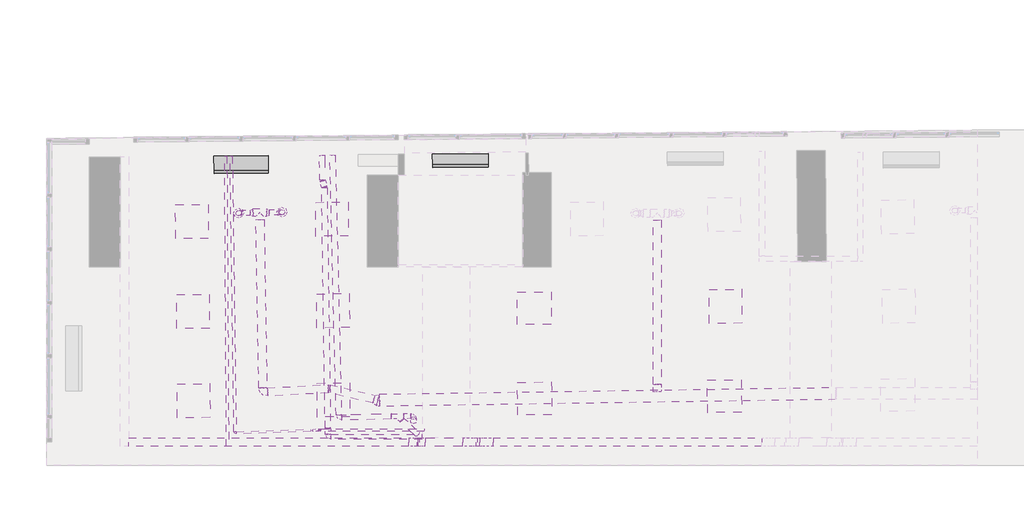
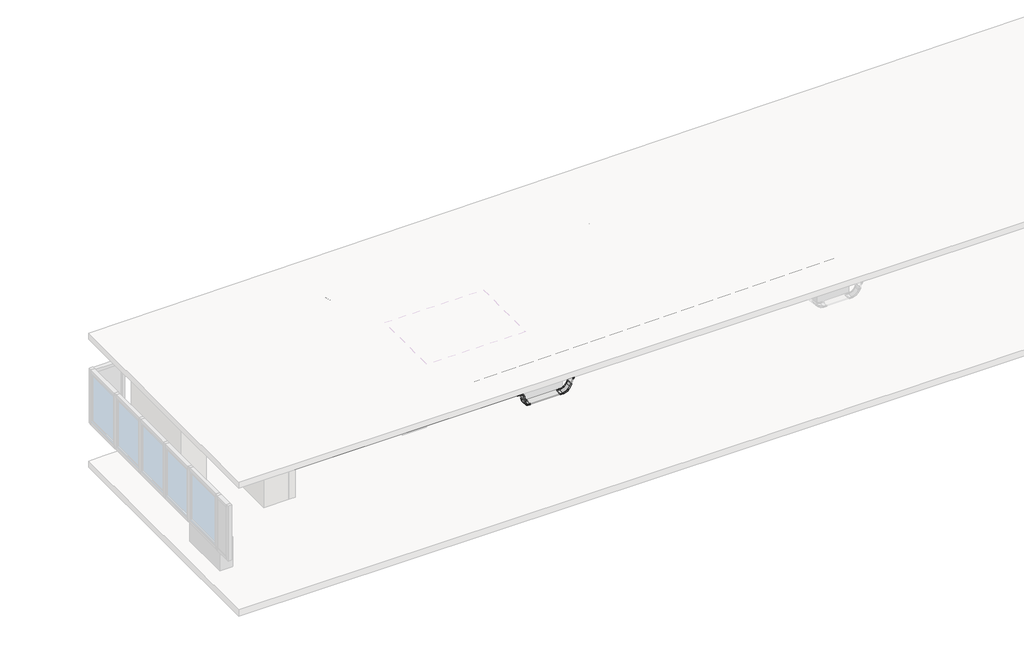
# One storey, part 6 of 8: 16 pipe segments, 10 duct fittings, 10 light fixtures, 10 pipe fittings, 9 duct segments, 5 cable carrier segments, 4 cable carrier fittings, 2 air terminals, 2 proxies.
"""IFC4 building model written with IfcOpenShell, lengths in millimetres."""

from ifc_helpers import new_model, si_unit, point, frame, frame_2d, origin, place, context, project, spatial, polyline, circle_curve, trimmed, segment, composite_curve, outline, extrude, transform, mapped, element, save
from components import air_terminal_3114c91a, proxy_798cdd37, proxy_726a70f3, channel_vertical_inside_bend_standard_5d8f391f, channel_vertical_inside_bend_standard_2b1ffb91, channel_vertical_outside_bend_standard_ca4bb387, channel_vertical_outside_bend_standard_291dc770, round_elbow_0_55_d_35647d84, round_elbow_0_55_d_2f2e2e61, round_elbow_0_55_d_09b24e18, round_elbow_0_55_d_1858b3fd, round_elbow_0_55_d_c1909886, round_takeoff_standard_f417390f, round_tee_standard_f7545f24, round_transition_length_standard_e66f7e9a, round_transition_length_standard_0e983aa8, pendant_lighting_fixture_1x4_120v_cc67f8e6, elbow_generic_standard_60ae2d4a, elbow_generic_standard_17437e0f, elbow_generic_standard_f62a786a, elbow_generic_standard_a206539d, elbow_generic_standard_da60b183, elbow_generic_standard_a6ae4ebe, elbow_generic_standard_b21686b2, tee_generic_standard_02cc237d

model = new_model("IFC4")

# Units and contexts
model_context = context("Model", 3, world=origin())
ifc_project = project(units=[si_unit("LENGTHUNIT", "METRE", prefix="MILLI")], contexts=[model_context])

# Site, building, storey
site = spatial("IfcSite", under=ifc_project)
building = spatial("IfcBuilding", under=site)
storey = spatial("IfcBuildingStorey", under=building, Name="GFL", Elevation=0.0)

# Air terminals
placement = place(None, origin())
air_terminal_shape = air_terminal_3114c91a(model_context)
element("IfcAirTerminal", 1, ObjectType="Supply Diffuser - Circular - Round Neck - Ceiling Mounted : 6\" Face 4\" Neck", at=placement, inside=storey, context=model_context, shape_type="MappedRepresentation", body=[
    mapped(air_terminal_shape, transform((-41029.1808852, 5716.9615802, 2689.3417846), x_axis=(-1.0, 0.0, 0.0), y_axis=(0.0, 1.0, 0.0), z_axis=(0.0, 0.0, -1.0))),
])
element("IfcAirTerminal", 2, ObjectType="Supply Diffuser - Circular - Round Neck - Ceiling Mounted : 6\" Face 4\" Neck", at=placement, inside=storey, context=model_context, shape_type="MappedRepresentation", body=[
    mapped(air_terminal_shape, transform((-41837.6248539, 5697.8498364, 2689.3417846), x_axis=(-1.0, 0.0, 0.0), y_axis=(0.0, 1.0, 0.0), z_axis=(0.0, 0.0, -1.0))),
])

# Proxies
proxy_shape = proxy_798cdd37(model_context)
element("IfcBuildingElementProxy", 3, Name="Radiator - Hydronic Fin Tube : 0-3/8\" NPT", ObjectType="Radiator - Hydronic Fin Tube : 0-3/8\" NPT", at=placement, inside=storey, context=model_context, shape_type="MappedRepresentation", body=[
    mapped(proxy_shape, transform((-38094.0061072, 6984.0221886, -304.8), x_axis=(-0.9999588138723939, -0.009075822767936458, 0.0), y_axis=(0.009075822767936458, -0.9999588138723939, 0.0), z_axis=(0.0, 0.0, 1.0))),
])
proxy_2_shape = proxy_726a70f3(model_context)
element("IfcBuildingElementProxy", 4, Name="Radiator - Hydronic Fin Tube : 0-3/8\" NPT 2", ObjectType="Radiator - Hydronic Fin Tube : 0-3/8\" NPT 2", at=placement, inside=storey, context=model_context, shape_type="MappedRepresentation", body=[
    mapped(proxy_2_shape, transform((-42203.3668942, 6946.7248223, -304.8), x_axis=(-0.9999588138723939, -0.009075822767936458, 0.0), y_axis=(0.009075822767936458, -0.9999588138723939, 0.0), z_axis=(0.0, 0.0, 1.0))),
])

# Cable carrier fittings
channel_vertical_inside_bend_standard_shape = channel_vertical_inside_bend_standard_5d8f391f(model_context)
element("IfcCableCarrierFitting", 5, ObjectType="Channel Vertical Inside Bend : Standard", at=placement, inside=storey, context=model_context, shape_type="MappedRepresentation", body=[
    mapped(channel_vertical_inside_bend_standard_shape, transform((-37467.8184924, 1419.8456465, 2429.073172), x_axis=(-0.4067366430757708, 0.0, -0.9135454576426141), y_axis=(-0.9135454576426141, 0.0, 0.4067366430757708), z_axis=(0.0, 1.0, 0.0))),
])
channel_vertical_inside_bend_standard_2_shape = channel_vertical_inside_bend_standard_2b1ffb91(model_context)
element("IfcCableCarrierFitting", 6, ObjectType="Channel Vertical Inside Bend : Standard", at=placement, inside=storey, context=model_context, shape_type="MappedRepresentation", body=[
    mapped(channel_vertical_inside_bend_standard_2_shape, transform((-38458.4184924, 1419.8456465, 2429.073172), x_axis=(-1.0, 0.0, 0.0), y_axis=(0.0, 0.0, 1.0), z_axis=(0.0, 1.0, 0.0))),
])
channel_vertical_outside_bend_standard_shape = channel_vertical_outside_bend_standard_ca4bb387(model_context)
element("IfcCableCarrierFitting", 7, ObjectType="Channel Vertical Outside Bend : Standard", at=placement, inside=storey, context=model_context, shape_type="MappedRepresentation", body=[
    mapped(channel_vertical_outside_bend_standard_shape, transform((-37271.5273884, 1419.8456465, 2869.9502098), x_axis=(-1.0, 0.0, 0.0), y_axis=(0.0, 0.0, -1.0), z_axis=(0.0, -1.0, 0.0))),
])
channel_vertical_outside_bend_standard_2_shape = channel_vertical_outside_bend_standard_291dc770(model_context)
element("IfcCableCarrierFitting", 8, ObjectType="Channel Vertical Outside Bend : Standard", at=placement, inside=storey, context=model_context, shape_type="MappedRepresentation", body=[
    mapped(channel_vertical_outside_bend_standard_2_shape, transform((-38513.4497264, 1419.8456465, 2741.1708089), x_axis=(-0.173648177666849, 0.0, 0.9848077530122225), y_axis=(-0.9848077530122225, 0.0, -0.173648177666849), z_axis=(0.0, -1.0, 0.0))),
])

# Cable carrier segments
element("IfcCableCarrierSegment", 9, ObjectType="Channel Cable Tray", at=placement, inside=storey, context=model_context, shape_type="SweptSolid", body=[
    extrude(outline(polyline([(-32068.1846444, 1496.0456465), (-32068.1846444, 1343.6456465), (-37088.1101948, 1343.6456465), (-37088.1101948, 1496.0456465), (-32068.1846444, 1496.0456465)])), frame((0.0, 0.0, 2857.2502098), z_axis=(0.0, 0.0, 1.0), x_axis=(1.0, 0.0, 0.0)), (0.0, 0.0, 1.0), 25.4),
])
element("IfcCableCarrierSegment", 10, ObjectType="Channel Cable Tray", at=placement, inside=storey, context=model_context, shape_type="SweptSolid", body=[
    extrude(outline(polyline([(12.7, -1.0510841), (12.7, -153.4510841), (-12.7, -153.4510841), (-12.7, -1.0510841), (12.7, -1.0510841)])), frame((-37393.2159988, 1497.0967306, 2596.6331161), z_axis=(0.4067366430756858, 0.0, 0.9135454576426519), x_axis=(0.9135454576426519, 0.0, -0.4067366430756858)), (0.0, 0.0, 1.0), 115.7656127),
])
element("IfcCableCarrierSegment", 11, ObjectType="Channel Cable Tray", at=placement, inside=storey, context=model_context, shape_type="SweptSolid", body=[
    extrude(outline(polyline([(-37651.235686, 1496.0456465), (-37651.235686, 1343.6456465), (-38354.3356658, 1343.6456465), (-38354.3356658, 1496.0456465), (-37651.235686, 1496.0456465)])), frame((0.0, 0.0, 2416.373172), z_axis=(0.0, 0.0, 1.0), x_axis=(1.0, 0.0, 0.0)), (0.0, 0.0, 1.0), 25.4),
])
element("IfcCableCarrierSegment", 12, ObjectType="Channel Cable Tray", at=placement, inside=storey, context=model_context, shape_type="SweptSolid", body=[
    extrude(outline(polyline([(-12.7, 153.4510841), (12.6999999, 153.4510841), (12.6999999, 1.0510841), (-12.7, 1.0510841), (-12.7, 153.4510841)])), frame((-38476.4922855, 1342.5945624, 2531.5747465), z_axis=(-0.173648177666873, 0.0, 0.9848077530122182), x_axis=(0.9848077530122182, 0.0, 0.173648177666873)), (0.0, 0.0, 1.0), 62.0334623),
])
element("IfcCableCarrierSegment", 13, ObjectType="Channel Cable Tray", at=placement, inside=storey, context=model_context, shape_type="SweptSolid", body=[
    extrude(outline(polyline([(-38664.2456836, 1496.0456465), (-38664.2456836, 1343.6456465), (-43892.2683535, 1343.6456465), (-43892.2683535, 1496.0456465), (-38664.2456836, 1496.0456465)])), frame((0.0, 0.0, 2728.4708089), z_axis=(0.0, 0.0, 1.0), x_axis=(1.0, 0.0, 0.0)), (0.0, 0.0, 1.0), 25.4),
])

# Duct fittings
round_elbow_0_55_d_shape = round_elbow_0_55_d_35647d84(model_context)
element("IfcDuctFitting", 14, ObjectType="Round Elbow : 0.55 D", at=placement, inside=storey, context=model_context, shape_type="MappedRepresentation", body=[
    mapped(round_elbow_0_55_d_shape, transform((-41029.1808852, 5716.9615802, 2890.0792846), x_axis=(0.9998476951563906, 0.0174524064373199, 0.0), y_axis=(0.0, 0.0, -1.0), z_axis=(-0.0174524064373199, 0.9998476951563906, 0.0))),
])
round_elbow_0_55_d_2_shape = round_elbow_0_55_d_2f2e2e61(model_context)
element("IfcDuctFitting", 15, ObjectType="Round Elbow : 0.55 D", at=placement, inside=storey, context=model_context, shape_type="MappedRepresentation", body=[
    mapped(round_elbow_0_55_d_2_shape, transform((-39223.3601217, 2202.7227638, 2890.0792846), x_axis=(0.9743700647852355, -0.22495105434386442, 0.0), y_axis=(0.22495105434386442, 0.9743700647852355, 0.0), z_axis=(0.0, 0.0, 1.0))),
])
round_elbow_0_55_d_3_shape = round_elbow_0_55_d_09b24e18(model_context)
element("IfcDuctFitting", 16, ObjectType="Round Elbow : 0.55 D", at=placement, inside=storey, context=model_context, shape_type="MappedRepresentation", body=[
    mapped(round_elbow_0_55_d_3_shape, transform((-40152.6939927, 2417.2763935, 2890.0792846), x_axis=(-0.9743700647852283, 0.22495105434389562, 0.0), y_axis=(-0.22495105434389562, -0.9743700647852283, 0.0), z_axis=(0.0, 0.0, 1.0))),
])
round_elbow_0_55_d_4_shape = round_elbow_0_55_d_1858b3fd(model_context)
element("IfcDuctFitting", 17, ObjectType="Round Elbow : 0.55 D", at=placement, inside=storey, context=model_context, shape_type="MappedRepresentation", body=[
    mapped(round_elbow_0_55_d_4_shape, transform((-41381.2026679, 2352.892982, 2890.0792846), x_axis=(0.05233595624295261, -0.9986295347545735, 0.0), y_axis=(0.9986295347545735, 0.05233595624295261, 0.0), z_axis=(0.0, 0.0, 1.0))),
])
round_elbow_0_55_d_5_shape = round_elbow_0_55_d_c1909886(model_context)
element("IfcDuctFitting", 18, ObjectType="Round Elbow : 0.55 D", at=placement, inside=storey, context=model_context, shape_type="MappedRepresentation", body=[
    mapped(round_elbow_0_55_d_5_shape, transform((-41836.4088771, 5702.8713632, 2890.0792846), x_axis=(-0.9998476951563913, -0.017452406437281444, 0.0), y_axis=(0.0007000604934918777, -0.04010643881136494, -0.9991951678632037), z_axis=(0.01743836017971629, -0.9990429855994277, 0.040112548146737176))),
])
round_takeoff_standard_shape = round_takeoff_standard_f417390f(model_context)
element("IfcDuctFitting", 19, ObjectType="Round Takeoff : Standard", at=placement, inside=storey, context=model_context, shape_type="MappedRepresentation", body=[
    mapped(round_takeoff_standard_shape, transform((-34022.2148144, 2394.4999263, 2890.0792846), x_axis=(0.0, 1.0, 0.0), y_axis=(-1.0, 0.0, 0.0), z_axis=(0.0, 0.0, 1.0))),
])
round_tee_standard_shape = round_tee_standard_f7545f24(model_context)
element("IfcDuctFitting", 20, ObjectType="Round Tee : Standard", at=placement, inside=storey, context=model_context, shape_type="MappedRepresentation", body=[
    mapped(round_tee_standard_shape, transform((-41442.7688395, 5709.7423756, 2890.0792846), x_axis=(0.9998476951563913, 0.017452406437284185, 0.0), y_axis=(-0.017452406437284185, 0.9998476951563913, 0.0), z_axis=(0.0, 0.0, 1.0))),
])
round_transition_length_standard_shape = round_transition_length_standard_e66f7e9a(model_context)
element("IfcDuctFitting", 21, ObjectType="Round Transition - Length : Standard", at=placement, inside=storey, context=model_context, shape_type="MappedRepresentation", body=[
    mapped(round_transition_length_standard_shape, transform((-41569.7494968, 5707.52592, 2890.0792846), x_axis=(-0.9998476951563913, -0.017452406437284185, 0.0), y_axis=(0.017452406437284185, -0.9998476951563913, 0.0), z_axis=(0.0, 0.0, 1.0))),
])
element("IfcDuctFitting", 22, ObjectType="Round Transition - Length : Standard", at=placement, inside=storey, context=model_context, shape_type="MappedRepresentation", body=[
    mapped(round_transition_length_standard_shape, transform((-41315.7881822, 5711.9588312, 2890.0792846), x_axis=(0.9998476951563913, 0.017452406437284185, 0.0), y_axis=(-0.017452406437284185, 0.9998476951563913, 0.0), z_axis=(0.0, 0.0, 1.0))),
])
round_transition_length_standard_2_shape = round_transition_length_standard_0e983aa8(model_context)
element("IfcDuctFitting", 23, ObjectType="Round Transition - Length : Standard", at=placement, inside=storey, context=model_context, shape_type="MappedRepresentation", body=[
    mapped(round_transition_length_standard_2_shape, transform((-39238.2429675, 2206.1587395, 2890.0792846), x_axis=(-0.9743700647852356, 0.22495105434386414, 0.0), y_axis=(-0.22495105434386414, -0.9743700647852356, 0.0), z_axis=(0.0, 0.0, 1.0))),
])

# Duct segments
element("IfcDuctSegment", 24, ObjectType="Default_Tap", at=placement, inside=storey, context=model_context, shape_type="SweptSolid", body=[
    extrude(outline(composite_curve([segment(trimmed(circle_curve(frame_2d((0.0, 114.3)), 114.3), [point((114.3, 114.3))], [point((0.0, 0.0))], False, "CARTESIAN"), True, "CONTINUOUS"), segment(trimmed(circle_curve(frame_2d((0.0, 114.3)), 114.3), [point((0.0, 0.0))], [point((-114.3, 114.3))], False, "CARTESIAN"), True, "CONTINUOUS"), segment(trimmed(circle_curve(frame_2d((0.0, 114.3)), 114.3), [point((-114.3, 114.3))], [point((0.0, 228.6))], False, "CARTESIAN"), True, "CONTINUOUS"), segment(trimmed(circle_curve(frame_2d((0.0, 114.3)), 114.3), [point((0.0, 228.6))], [point((114.3, 114.3))], False, "CARTESIAN"), True, "CONTINUOUS")], self_intersect=False)), frame((-39208.0874897, 2202.9502303, 3004.3792846), z_axis=(0.9998891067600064, 0.014892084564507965, 0.0), x_axis=(0.014892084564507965, -0.9998891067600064, 0.0)), (0.0, 0.0, 1.0), 8522.6117112),
])
element("IfcDuctSegment", 25, ObjectType="Default_Tap", at=placement, inside=storey, context=model_context, shape_type="SweptSolid", body=[
    extrude(outline(composite_curve([segment(trimmed(circle_curve(frame_2d((2890.0792846, -34022.2148144)), 76.2), [point((2890.0792846, -33946.0148144))], [point((2966.2792846, -34022.2148144))], False, "CARTESIAN"), True, "CONTINUOUS"), segment(trimmed(circle_curve(frame_2d((2890.0792846, -34022.2148144)), 76.2), [point((2966.2792846, -34022.2148144))], [point((2890.0792846, -34098.4148144))], False, "CARTESIAN"), True, "CONTINUOUS"), segment(trimmed(circle_curve(frame_2d((2890.0792846, -34022.2148144)), 76.2), [point((2890.0792846, -34098.4148144))], [point((2813.8792846, -34022.2148144))], False, "CARTESIAN"), True, "CONTINUOUS"), segment(trimmed(circle_curve(frame_2d((2890.0792846, -34022.2148144)), 76.2), [point((2813.8792846, -34022.2148144))], [point((2890.0792846, -33946.0148144))], False, "CARTESIAN"), True, "CONTINUOUS")], self_intersect=False)), frame((0.0, 2497.234829, 0.0), z_axis=(0.0, 1.0, 0.0), x_axis=(0.0, 0.0, 1.0)), (0.0, 0.0, 1.0), 3073.6150074),
])
element("IfcDuctSegment", 26, ObjectType="Default_Tap", at=placement, inside=storey, context=model_context, shape_type="SweptSolid", body=[
    extrude(outline(composite_curve([segment(trimmed(circle_curve(frame_2d((0.0, 76.2)), 76.2), [point((76.2, 76.2))], [point((0.0, 0.0))], False, "CARTESIAN"), True, "CONTINUOUS"), segment(trimmed(circle_curve(frame_2d((0.0, 76.2)), 76.2), [point((0.0, 0.0))], [point((-76.2, 76.2))], False, "CARTESIAN"), True, "CONTINUOUS"), segment(trimmed(circle_curve(frame_2d((0.0, 76.2)), 76.2), [point((-76.2, 76.2))], [point((0.0, 152.4))], False, "CARTESIAN"), True, "CONTINUOUS"), segment(trimmed(circle_curve(frame_2d((0.0, 76.2)), 76.2), [point((0.0, 152.4))], [point((76.2, 76.2))], False, "CARTESIAN"), True, "CONTINUOUS")], self_intersect=False)), frame((-39312.4899665, 2223.3000098, 2966.2792846), z_axis=(-0.9743700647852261, 0.22495105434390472, 0.0), x_axis=(0.22495105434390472, 0.9743700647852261, 0.0)), (0.0, 0.0, 1.0), 850.5247107),
])
element("IfcDuctSegment", 27, ObjectType="Default_Tap", at=placement, inside=storey, context=model_context, shape_type="SweptSolid", body=[
    extrude(outline(composite_curve([segment(trimmed(circle_curve(frame_2d((0.0, -76.2)), 76.2), [point((-76.2, -76.2))], [point((0.0, 0.0))], False, "CARTESIAN"), True, "CONTINUOUS"), segment(trimmed(circle_curve(frame_2d((0.0, -76.2)), 76.2), [point((0.0, 0.0))], [point((76.2000001, -76.2))], False, "CARTESIAN"), True, "CONTINUOUS"), segment(trimmed(circle_curve(frame_2d((0.0, -76.2)), 76.2), [point((76.2000001, -76.2))], [point((0.0, -152.4))], False, "CARTESIAN"), True, "CONTINUOUS"), segment(trimmed(circle_curve(frame_2d((0.0, -76.2)), 76.2), [point((0.0, -152.4))], [point((-76.2, -76.2))], False, "CARTESIAN"), True, "CONTINUOUS")], self_intersect=False)), frame((-41297.4975403, 2357.2797819, 2813.8792846), z_axis=(0.9986295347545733, 0.05233595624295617, 0.0), x_axis=(0.05233595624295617, -0.9986295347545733, 0.0)), (0.0, 0.0, 1.0), 1134.5944814),
])
element("IfcDuctSegment", 28, ObjectType="Default_Tap", at=placement, inside=storey, context=model_context, shape_type="SweptSolid", body=[
    extrude(outline(composite_curve([segment(trimmed(circle_curve(frame_2d((0.0, 76.2)), 76.2), [point((76.2, 76.2))], [point((0.0, 0.0))], False, "CARTESIAN"), True, "CONTINUOUS"), segment(trimmed(circle_curve(frame_2d((0.0, 76.2)), 76.2), [point((0.0, 0.0))], [point((-76.2, 76.2))], False, "CARTESIAN"), True, "CONTINUOUS"), segment(trimmed(circle_curve(frame_2d((0.0, 76.2)), 76.2), [point((-76.2, 76.2))], [point((0.0, 152.4))], False, "CARTESIAN"), True, "CONTINUOUS"), segment(trimmed(circle_curve(frame_2d((0.0, 76.2)), 76.2), [point((0.0, 152.4))], [point((76.2, 76.2))], False, "CARTESIAN"), True, "CONTINUOUS")], self_intersect=False)), frame((-41385.6358514, 2436.5956788, 2966.2792846), z_axis=(-0.017452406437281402, 0.9998476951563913, 0.0), x_axis=(0.9998476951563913, 0.017452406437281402, 0.0)), (0.0, 0.0, 1.0), 3146.6452889),
])
element("IfcDuctSegment", 29, ObjectType="Default_Tap", at=placement, inside=storey, context=model_context, shape_type="SweptSolid", body=[
    extrude(outline(composite_curve([segment(trimmed(circle_curve(frame_2d((0.0, -50.8)), 50.8), [point((-50.8, -50.8))], [point((0.0, 0.0))], False, "CARTESIAN"), True, "CONTINUOUS"), segment(trimmed(circle_curve(frame_2d((0.0, -50.8)), 50.8), [point((0.0, 0.0))], [point((50.8, -50.8))], False, "CARTESIAN"), True, "CONTINUOUS"), segment(trimmed(circle_curve(frame_2d((0.0, -50.8)), 50.8), [point((50.8, -50.8))], [point((0.0, -101.6))], False, "CARTESIAN"), True, "CONTINUOUS"), segment(trimmed(circle_curve(frame_2d((0.0, -50.8)), 50.8), [point((0.0, -101.6))], [point((-50.8, -50.8))], False, "CARTESIAN"), True, "CONTINUOUS")], self_intersect=False)), frame((-41781.1186221, 5703.8364582, 2839.2792846), z_axis=(0.9998476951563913, 0.017452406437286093, 0.0), x_axis=(0.017452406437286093, -0.9998476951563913, 0.0)), (0.0, 0.0, 1.0), 160.6013228),
])
element("IfcDuctSegment", 30, ObjectType="Default_Tap", at=placement, inside=storey, context=model_context, shape_type="SweptSolid", body=[
    extrude(outline(composite_curve([segment(trimmed(circle_curve(frame_2d((0.0, -50.8)), 50.8), [point((-0.9072335, -0.0081018))], [point((50.7918982, -49.8927666))], False, "CARTESIAN"), True, "CONTINUOUS"), segment(trimmed(circle_curve(frame_2d((0.0, -50.8)), 50.8), [point((50.7918982, -49.8927666))], [point((0.9072334, -101.5918983))], False, "CARTESIAN"), True, "CONTINUOUS"), segment(trimmed(circle_curve(frame_2d((0.0, -50.8)), 50.8), [point((0.9072334, -101.5918983))], [point((-50.7918983, -51.7072335))], False, "CARTESIAN"), True, "CONTINUOUS"), segment(trimmed(circle_curve(frame_2d((0.0, -50.8)), 50.8), [point((-50.7918983, -51.7072335))], [point((-0.9072335, -0.0081018))], False, "CARTESIAN"), True, "CONTINUOUS")], self_intersect=False)), frame((-41837.6248539, 5748.608591, 2763.4951203), z_axis=(0.009755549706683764, 0.040286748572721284, 0.9991405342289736), x_axis=(0.9999524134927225, -0.00039303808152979, -0.009747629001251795)), (0.0, 0.0, 1.0), 69.3459505),
])
element("IfcDuctSegment", 31, ObjectType="Default_Tee", at=placement, inside=storey, context=model_context, shape_type="SweptSolid", body=[
    extrude(outline(composite_curve([segment(trimmed(circle_curve(frame_2d((0.0, 50.8)), 50.8), [point((50.8, 50.8))], [point((0.0, 0.0))], False, "CARTESIAN"), True, "CONTINUOUS"), segment(trimmed(circle_curve(frame_2d((0.0, 50.8)), 50.8), [point((0.0, 0.0))], [point((-50.8, 50.8))], False, "CARTESIAN"), True, "CONTINUOUS"), segment(trimmed(circle_curve(frame_2d((0.0, 50.8)), 50.8), [point((-50.8, 50.8))], [point((0.0, 101.6))], False, "CARTESIAN"), True, "CONTINUOUS"), segment(trimmed(circle_curve(frame_2d((0.0, 50.8)), 50.8), [point((0.0, 101.6))], [point((50.8, 50.8))], False, "CARTESIAN"), True, "CONTINUOUS")], self_intersect=False)), frame((-41264.9959193, 5712.8454135, 2940.8792846), z_axis=(0.9998476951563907, 0.017452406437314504, 0.0), x_axis=(0.017452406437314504, -0.9998476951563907, 0.0)), (0.0, 0.0, 1.0), 179.9709554),
])
element("IfcDuctSegment", 32, ObjectType="Default_Tee", at=placement, inside=storey, context=model_context, shape_type="SweptSolid", body=[
    extrude(outline(composite_curve([segment(trimmed(circle_curve(frame_2d((-41029.1808852, 5716.9615802)), 50.8), [point((-41030.0674674, 5767.7538431))], [point((-40978.3886223, 5717.8481625))], False, "CARTESIAN"), True, "CONTINUOUS"), segment(trimmed(circle_curve(frame_2d((-41029.1808852, 5716.9615802)), 50.8), [point((-40978.3886223, 5717.8481625))], [point((-41028.2943029, 5666.1693173))], False, "CARTESIAN"), True, "CONTINUOUS"), segment(trimmed(circle_curve(frame_2d((-41029.1808852, 5716.9615802)), 50.8), [point((-41028.2943029, 5666.1693173))], [point((-41079.9731481, 5716.074998))], False, "CARTESIAN"), True, "CONTINUOUS"), segment(trimmed(circle_curve(frame_2d((-41029.1808852, 5716.9615802)), 50.8), [point((-41079.9731481, 5716.074998))], [point((-41030.0674674, 5767.7538431))], False, "CARTESIAN"), True, "CONTINUOUS")], self_intersect=False)), frame((0.0, 0.0, 2765.5417846), z_axis=(0.0, 0.0, 1.0), x_axis=(1.0, 0.0, 0.0)), (0.0, 0.0, 1.0), 68.6575),
])

# Light fixtures
pendant_lighting_fixture_1x4_120v_shape = pendant_lighting_fixture_1x4_120v_cc67f8e6(model_context)
element("IfcLightFixture", 33, ObjectType="Pendant Lighting Fixture : 1x4 - 120V", at=placement, inside=storey, context=model_context, shape_type="MappedRepresentation", body=[
    mapped(pendant_lighting_fixture_1x4_120v_shape, transform((-36424.2498161, 4228.8811641, 3028.95), x_axis=(0.0, -1.0, 0.0), y_axis=(-1.0, 0.0, 0.0), z_axis=(0.0, 0.0, -1.0))),
])
element("IfcLightFixture", 34, ObjectType="Pendant Lighting Fixture : 1x4 - 120V", at=placement, inside=storey, context=model_context, shape_type="MappedRepresentation", body=[
    mapped(pendant_lighting_fixture_1x4_120v_shape, transform((-36417.0446213, 2539.2468497, 3028.95), x_axis=(0.009871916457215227, -0.9999512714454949, 0.0), y_axis=(-0.9999512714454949, -0.009871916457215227, 0.0), z_axis=(0.0, 0.0, -1.0))),
])
element("IfcLightFixture", 35, ObjectType="Pendant Lighting Fixture : 1x4 - 120V", at=placement, inside=storey, context=model_context, shape_type="MappedRepresentation", body=[
    mapped(pendant_lighting_fixture_1x4_120v_shape, transform((-40371.0965855, 2102.6547872, 3028.95), x_axis=(0.9999512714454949, 0.00987191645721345, 0.0), y_axis=(0.00987191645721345, -0.9999512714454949, 0.0), z_axis=(0.0, 0.0, -1.0))),
])
element("IfcLightFixture", 36, ObjectType="Pendant Lighting Fixture : 1x4 - 120V", at=placement, inside=storey, context=model_context, shape_type="MappedRepresentation", body=[
    mapped(pendant_lighting_fixture_1x4_120v_shape, transform((-40377.8653668, 3772.9901868, 3028.95), x_axis=(0.9999512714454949, 0.00987191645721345, 0.0), y_axis=(0.00987191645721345, -0.9999512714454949, 0.0), z_axis=(0.0, 0.0, -1.0))),
])
element("IfcLightFixture", 37, ObjectType="Pendant Lighting Fixture : 1x4 - 120V", at=placement, inside=storey, context=model_context, shape_type="MappedRepresentation", body=[
    mapped(pendant_lighting_fixture_1x4_120v_shape, transform((-40398.7982644, 5481.8017787, 3028.95), x_axis=(0.9999512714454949, 0.00987191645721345, 0.0), y_axis=(0.00987191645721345, -0.9999512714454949, 0.0), z_axis=(0.0, 0.0, -1.0))),
])
element("IfcLightFixture", 38, ObjectType="Pendant Lighting Fixture : 1x4 - 120V", at=placement, inside=storey, context=model_context, shape_type="MappedRepresentation", body=[
    mapped(pendant_lighting_fixture_1x4_120v_shape, transform((-43015.3153668, 5437.2901868, 3028.95), x_axis=(0.9999512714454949, 0.00987191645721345, 0.0), y_axis=(0.00987191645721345, -0.9999512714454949, 0.0), z_axis=(0.0, 0.0, -1.0))),
])
element("IfcLightFixture", 39, ObjectType="Pendant Lighting Fixture : 1x4 - 120V", at=placement, inside=storey, context=model_context, shape_type="MappedRepresentation", body=[
    mapped(pendant_lighting_fixture_1x4_120v_shape, transform((-42993.0730369, 3758.4182122, 3028.95), x_axis=(0.9999512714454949, 0.00987191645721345, 0.0), y_axis=(0.00987191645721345, -0.9999512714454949, 0.0), z_axis=(0.0, 0.0, -1.0))),
])
element("IfcLightFixture", 40, ObjectType="Pendant Lighting Fixture : 1x4 - 120V", at=placement, inside=storey, context=model_context, shape_type="MappedRepresentation", body=[
    mapped(pendant_lighting_fixture_1x4_120v_shape, transform((-42983.1245517, 2088.6470843, 3028.95), x_axis=(0.9999512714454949, 0.00987191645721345, 0.0), y_axis=(0.00987191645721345, -0.9999512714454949, 0.0), z_axis=(0.0, 0.0, -1.0))),
])
element("IfcLightFixture", 41, ObjectType="Pendant Lighting Fixture : 1x4 - 120V", at=placement, inside=storey, context=model_context, shape_type="MappedRepresentation", body=[
    mapped(pendant_lighting_fixture_1x4_120v_shape, transform((-32871.6225876, 2583.3391468, 3028.95), x_axis=(0.009871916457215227, -0.9999512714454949, 0.0), y_axis=(-0.9999512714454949, -0.009871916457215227, 0.0), z_axis=(0.0, 0.0, -1.0))),
])
element("IfcLightFixture", 42, ObjectType="Pendant Lighting Fixture : 1x4 - 120V", at=placement, inside=storey, context=model_context, shape_type="MappedRepresentation", body=[
    mapped(pendant_lighting_fixture_1x4_120v_shape, transform((-33050.0245517, 3853.4970843, 3028.95), x_axis=(0.9999512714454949, 0.00987191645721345, 0.0), y_axis=(0.00987191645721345, -0.9999512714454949, 0.0), z_axis=(0.0, 0.0, -1.0))),
])

# Pipe fittings
elbow_generic_standard_shape = elbow_generic_standard_60ae2d4a(model_context)
element("IfcPipeFitting", 43, ObjectType="Elbow - Generic : Standard", at=placement, inside=storey, context=model_context, shape_type="MappedRepresentation", body=[
    mapped(elbow_generic_standard_shape, transform((-39966.9219783, 1878.7964447, 2763.8714418), x_axis=(0.024099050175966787, -0.9997031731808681, 0.0035778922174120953), y_axis=(0.999097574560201, 0.02420935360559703, 0.03489905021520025), z_axis=(-0.03497530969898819, 0.0027336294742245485, 0.999384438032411))),
])
elbow_generic_standard_2_shape = elbow_generic_standard_17437e0f(model_context)
element("IfcPipeFitting", 44, ObjectType="Elbow - Generic : Standard", at=placement, inside=storey, context=model_context, shape_type="MappedRepresentation", body=[
    mapped(elbow_generic_standard_2_shape, transform((-38571.1784737, 1912.4425245, 2812.6270294), x_axis=(-0.0011033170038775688, 0.8661349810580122, -0.49980894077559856), y_axis=(-0.9991057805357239, -0.022079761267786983, -0.03605722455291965), z_axis=(-0.04226608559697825, 0.4993222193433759, 0.865384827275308))),
])
elbow_generic_standard_3_shape = elbow_generic_standard_f62a786a(model_context)
element("IfcPipeFitting", 45, ObjectType="Elbow - Generic : Standard", at=placement, inside=storey, context=model_context, shape_type="MappedRepresentation", body=[
    mapped(elbow_generic_standard_3_shape, transform((-40271.4452146, 6308.8222347, 2779.2123915), x_axis=(0.024099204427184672, -0.9997095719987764, 0.0), y_axis=(0.9997095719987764, 0.024099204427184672, 0.0), z_axis=(0.0, 0.0, 1.0))),
])
element("IfcPipeFitting", 46, ObjectType="Elbow - Generic : Standard", at=placement, inside=storey, context=model_context, shape_type="MappedRepresentation", body=[
    mapped(elbow_generic_standard_3_shape, transform((-40238.5751959, 6186.1496548, 2779.2123915), x_axis=(-0.024099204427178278, 0.9997095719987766, 0.0), y_axis=(-0.9997095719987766, -0.024099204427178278, 0.0), z_axis=(0.0, 0.0, 1.0))),
])
elbow_generic_standard_4_shape = elbow_generic_standard_a206539d(model_context)
element("IfcPipeFitting", 47, ObjectType="Elbow - Generic : Standard", at=placement, inside=storey, context=model_context, shape_type="MappedRepresentation", body=[
    mapped(elbow_generic_standard_4_shape, transform((-40172.7568787, 1678.1303947, 2779.2123915), x_axis=(0.014585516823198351, -0.9998936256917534, 0.0), y_axis=(0.010698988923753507, 0.0001560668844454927, 0.999942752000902), z_axis=(-0.9998363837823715, -0.01458468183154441, 0.010700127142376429))),
])
elbow_generic_standard_5_shape = elbow_generic_standard_da60b183(model_context)
element("IfcPipeFitting", 48, ObjectType="Elbow - Generic : Standard", at=placement, inside=storey, context=model_context, shape_type="MappedRepresentation", body=[
    mapped(elbow_generic_standard_5_shape, transform((-40169.9736675, 1518.6803295, 2821.9434158), x_axis=(0.016857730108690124, -0.965778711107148, 0.2588190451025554), y_axis=(0.999857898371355, 0.016283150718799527, -0.004363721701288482), z_axis=(0.0, 0.2588558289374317, 0.9659159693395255))),
])
elbow_generic_standard_6_shape = elbow_generic_standard_a6ae4ebe(model_context)
element("IfcPipeFitting", 49, ObjectType="Elbow - Generic : Standard", at=placement, inside=storey, context=model_context, shape_type="MappedRepresentation", body=[
    mapped(elbow_generic_standard_6_shape, transform((-41904.3600548, 1591.5210166, 2807.2301931), x_axis=(0.014094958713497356, -0.9999006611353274, 0.0), y_axis=(0.9992915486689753, 0.014086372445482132, 0.03489949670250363), z_axis=(-0.034896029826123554, -0.0004919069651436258, 0.9993908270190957))),
])
element("IfcPipeFitting", 50, ObjectType="Elbow - Generic : Standard", at=placement, inside=storey, context=model_context, shape_type="MappedRepresentation", body=[
    mapped(elbow_generic_standard_6_shape, transform((-40328.8219583, 1646.2919863, 2934.8639721), x_axis=(0.0, 0.0, 1.0), y_axis=(1.0, 0.0, 0.0), z_axis=(0.0, 1.0, 0.0))),
])
elbow_generic_standard_7_shape = elbow_generic_standard_b21686b2(model_context)
element("IfcPipeFitting", 51, ObjectType="Elbow - Generic : Standard", at=placement, inside=storey, context=model_context, shape_type="MappedRepresentation", body=[
    mapped(elbow_generic_standard_7_shape, transform((-40328.8219583, 1646.2919863, 2833.2639721), x_axis=(0.9992536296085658, 0.03505408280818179, 0.016229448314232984), y_axis=(-0.016219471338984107, -0.0005689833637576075, 0.9998682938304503), z_axis=(0.03505870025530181, -0.9993852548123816, 0.0))),
])
tee_generic_standard_shape = tee_generic_standard_02cc237d(model_context)
element("IfcPipeFitting", 52, ObjectType="Tee - Generic : Standard", at=placement, inside=storey, context=model_context, shape_type="MappedRepresentation", body=[
    mapped(tee_generic_standard_shape, transform((-38871.6587622, 1905.1990849, 2802.1307566), x_axis=(0.9991005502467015, 0.024084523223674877, 0.03490023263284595), y_axis=(-0.018001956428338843, 0.9861028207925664, -0.16515797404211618), z_axis=(-0.0383929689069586, 0.1643811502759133, 0.9856494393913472))),
])

# Pipe segments
element("IfcPipeSegment", 53, ObjectType="Default", at=placement, inside=storey, context=model_context, shape_type="SweptSolid", body=[
    extrude(outline(composite_curve([segment(trimmed(circle_curve(frame_2d((0.0, 50.8)), 50.8), [point((-50.7999998, 50.7956186))], [point((-0.0043815, 101.5999998))], False, "CARTESIAN"), True, "CONTINUOUS"), segment(trimmed(circle_curve(frame_2d((0.0, 50.8)), 50.8), [point((-0.0043815, 101.5999998))], [point((50.7999999, 50.8043815))], False, "CARTESIAN"), True, "CONTINUOUS"), segment(trimmed(circle_curve(frame_2d((0.0, 50.8)), 50.8), [point((50.7999999, 50.8043815))], [point((0.0043815, 2e-07))], False, "CARTESIAN"), True, "CONTINUOUS"), segment(trimmed(circle_curve(frame_2d((0.0, 50.8)), 50.8), [point((0.0043815, 2e-07))], [point((-50.7999998, 50.7956186))], False, "CARTESIAN"), True, "CONTINUOUS")], self_intersect=False)), frame((-40085.1319907, 6782.331738, 2695.5215865), z_axis=(0.024099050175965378, -0.9997031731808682, 0.003577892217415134), x_axis=(0.9997095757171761, 0.024098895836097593, -8.624885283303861e-05)), (0.0, 0.0, 1.0), 4852.792131),
])
element("IfcPipeSegment", 54, ObjectType="Default", at=placement, inside=storey, context=model_context, shape_type="SweptSolid", body=[
    extrude(outline(composite_curve([segment(trimmed(circle_curve(frame_2d((0.0, 50.8)), 50.8), [point((28.8709214, 9.0015563))], [point((-41.7984438, 21.9290786))], False, "CARTESIAN"), True, "CONTINUOUS"), segment(trimmed(circle_curve(frame_2d((0.0, 50.8)), 50.8), [point((-41.7984438, 21.9290786))], [point((-28.8709215, 92.5984437))], False, "CARTESIAN"), True, "CONTINUOUS"), segment(trimmed(circle_curve(frame_2d((0.0, 50.8)), 50.8), [point((-28.8709215, 92.5984437))], [point((41.7984437, 79.6709214))], False, "CARTESIAN"), True, "CONTINUOUS"), segment(trimmed(circle_curve(frame_2d((0.0, 50.8)), 50.8), [point((41.7984437, 79.6709214))], [point((28.8709214, 9.0015563))], False, "CARTESIAN"), True, "CONTINUOUS")], self_intersect=False)), frame((-38756.6658587, 1866.1605408, 2835.000982), z_axis=(0.9991005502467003, 0.024084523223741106, 0.03490023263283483), x_axis=(0.04240389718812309, -0.5674681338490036, -0.822302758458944)), (0.0, 0.0, 1.0), 133.145471),
])
element("IfcPipeSegment", 55, ObjectType="Default", at=placement, inside=storey, context=model_context, shape_type="SweptSolid", body=[
    extrude(outline(composite_curve([segment(trimmed(circle_curve(frame_2d((0.0, 50.8)), 50.8), [point((-50.7999897, 50.7676568))], [point((-0.0323431, 101.5999896))], False, "CARTESIAN"), True, "CONTINUOUS"), segment(trimmed(circle_curve(frame_2d((0.0, 50.8)), 50.8), [point((-0.0323431, 101.5999896))], [point((50.7999897, 50.8323431))], False, "CARTESIAN"), True, "CONTINUOUS"), segment(trimmed(circle_curve(frame_2d((0.0, 50.8)), 50.8), [point((50.7999897, 50.8323431))], [point((0.0323431, 1.03e-05))], False, "CARTESIAN"), True, "CONTINUOUS"), segment(trimmed(circle_curve(frame_2d((0.0, 50.8)), 50.8), [point((0.0323431, 1.03e-05))], [point((-50.7999897, 50.7676568))], False, "CARTESIAN"), True, "CONTINUOUS")], self_intersect=False)), frame((-38571.1205397, 1841.5724192, 2794.8717637), z_axis=(0.0011033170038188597, -0.8661349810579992, 0.49980894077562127), x_axis=(0.9999993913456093, 0.0009556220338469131, -0.0005514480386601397)), (0.0, 0.0, 1.0), 87.1910993),
])
element("IfcPipeSegment", 56, ObjectType="Default", at=placement, inside=storey, context=model_context, shape_type="SweptSolid", body=[
    extrude(outline(composite_curve([segment(trimmed(circle_curve(frame_2d((0.0, 50.8)), 50.8), [point((-50.203828, 43.0401254))], [point((-7.7598746, 101.003828))], False, "CARTESIAN"), True, "CONTINUOUS"), segment(trimmed(circle_curve(frame_2d((0.0, 50.8)), 50.8), [point((-7.7598746, 101.003828))], [point((50.203828, 58.5598745))], False, "CARTESIAN"), True, "CONTINUOUS"), segment(trimmed(circle_curve(frame_2d((0.0, 50.8)), 50.8), [point((50.203828, 58.5598745))], [point((7.7598745, 0.596172))], False, "CARTESIAN"), True, "CONTINUOUS"), segment(trimmed(circle_curve(frame_2d((0.0, 50.8)), 50.8), [point((7.7598745, 0.596172))], [point((-50.203828, 43.0401254))], False, "CARTESIAN"), True, "CONTINUOUS")], self_intersect=False)), frame((-38786.9578524, 1818.492102, 2768.4338355), z_axis=(0.7359125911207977, -0.662618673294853, 0.1391731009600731), x_axis=(0.6770765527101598, 0.7201983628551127, -0.15126685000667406)), (0.0, 0.0, 1.0), 399.253573),
])
element("IfcPipeSegment", 57, ObjectType="Default", at=placement, inside=storey, context=model_context, shape_type="SweptSolid", body=[
    extrude(outline(composite_curve([segment(trimmed(circle_curve(frame_2d((0.0, 50.8)), 50.8), [point((28.8709214, 9.0015563))], [point((-41.7984437, 21.9290785))], False, "CARTESIAN"), True, "CONTINUOUS"), segment(trimmed(circle_curve(frame_2d((0.0, 50.8)), 50.8), [point((-41.7984437, 21.9290785))], [point((-28.8709215, 92.5984437))], False, "CARTESIAN"), True, "CONTINUOUS"), segment(trimmed(circle_curve(frame_2d((0.0, 50.8)), 50.8), [point((-28.8709215, 92.5984437))], [point((41.7984437, 79.6709214))], False, "CARTESIAN"), True, "CONTINUOUS"), segment(trimmed(circle_curve(frame_2d((0.0, 50.8)), 50.8), [point((41.7984437, 79.6709214))], [point((28.8709214, 9.0015563))], False, "CARTESIAN"), True, "CONTINUOUS")], self_intersect=False)), frame((-39914.588132, 1838.2474285, 2794.5528442), z_axis=(0.9991005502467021, 0.024084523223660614, 0.034900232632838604), x_axis=(0.042403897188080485, -0.567468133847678, -0.8223027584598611)), (0.0, 0.0, 1.0), 928.7718498),
])
element("IfcPipeSegment", 58, ObjectType="Default", at=placement, inside=storey, context=model_context, shape_type="SweptSolid", body=[
    extrude(outline(composite_curve([segment(trimmed(circle_curve(frame_2d((0.0, -50.8)), 50.8), [point((-50.8, -50.8))], [point((0.0, 0.0))], False, "CARTESIAN"), True, "CONTINUOUS"), segment(trimmed(circle_curve(frame_2d((0.0, -50.8)), 50.8), [point((0.0, 0.0))], [point((50.7999999, -50.8))], False, "CARTESIAN"), True, "CONTINUOUS"), segment(trimmed(circle_curve(frame_2d((0.0, -50.8)), 50.8), [point((50.7999999, -50.8))], [point((0.0, -101.6))], False, "CARTESIAN"), True, "CONTINUOUS"), segment(trimmed(circle_curve(frame_2d((0.0, -50.8)), 50.8), [point((0.0, -101.6))], [point((-50.8, -50.8))], False, "CARTESIAN"), True, "CONTINUOUS")], self_intersect=False)), frame((-40271.5959715, 6315.0760977, 2728.4123915), z_axis=(-0.02409920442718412, 0.9997095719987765, 0.0), x_axis=(0.9997095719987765, 0.02409920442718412, 0.0)), (0.0, 0.0, 1.0), 465.5583608),
])
element("IfcPipeSegment", 59, ObjectType="Default", at=placement, inside=storey, context=model_context, shape_type="SweptSolid", body=[
    extrude(outline(composite_curve([segment(trimmed(circle_curve(frame_2d((0.0, -50.8)), 50.8), [point((-50.8, -50.8))], [point((0.0, 0.0))], False, "CARTESIAN"), True, "CONTINUOUS"), segment(trimmed(circle_curve(frame_2d((0.0, -50.8)), 50.8), [point((0.0, 0.0))], [point((50.8, -50.8))], False, "CARTESIAN"), True, "CONTINUOUS"), segment(trimmed(circle_curve(frame_2d((0.0, -50.8)), 50.8), [point((50.8, -50.8))], [point((0.0, -101.6))], False, "CARTESIAN"), True, "CONTINUOUS"), segment(trimmed(circle_curve(frame_2d((0.0, -50.8)), 50.8), [point((0.0, -101.6))], [point((-50.8, -50.8))], False, "CARTESIAN"), True, "CONTINUOUS")], self_intersect=False)), frame((-40240.194285, 6192.1921774, 2728.4123915), z_axis=(-0.25881904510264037, 0.9659258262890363, 0.0), x_axis=(0.9659258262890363, 0.25881904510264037, 0.0)), (0.0, 0.0, 1.0), 114.4886404),
])
element("IfcPipeSegment", 60, ObjectType="Default", at=placement, inside=storey, context=model_context, shape_type="SweptSolid", body=[
    extrude(outline(composite_curve([segment(trimmed(circle_curve(frame_2d((0.0, -50.8)), 50.8), [point((-50.8, -50.8))], [point((0.0, 0.0))], False, "CARTESIAN"), True, "CONTINUOUS"), segment(trimmed(circle_curve(frame_2d((0.0, -50.8)), 50.8), [point((0.0, 0.0))], [point((50.8, -50.8))], False, "CARTESIAN"), True, "CONTINUOUS"), segment(trimmed(circle_curve(frame_2d((0.0, -50.8)), 50.8), [point((50.8, -50.8))], [point((0.0, -101.6))], False, "CARTESIAN"), True, "CONTINUOUS"), segment(trimmed(circle_curve(frame_2d((0.0, -50.8)), 50.8), [point((0.0, -101.6))], [point((-50.8, -50.8))], False, "CARTESIAN"), True, "CONTINUOUS")], self_intersect=False)), frame((-40172.8574802, 1685.027015, 2728.4123915), z_axis=(-0.014585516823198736, 0.9998936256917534, 0.0), x_axis=(0.9998936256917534, 0.014585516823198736, 0.0)), (0.0, 0.0, 1.0), 4495.3469662),
])
element("IfcPipeSegment", 61, ObjectType="Default", at=placement, inside=storey, context=model_context, shape_type="SweptSolid", body=[
    extrude(outline(composite_curve([segment(trimmed(circle_curve(frame_2d((0.0, 50.8000001)), 50.8), [point((-50.7994816, 50.5705031))], [point((-0.229497, 101.5994816))], False, "CARTESIAN"), True, "CONTINUOUS"), segment(trimmed(circle_curve(frame_2d((0.0, 50.8000001)), 50.8), [point((-0.229497, 101.5994816))], [point((50.7994816, 51.029497))], False, "CARTESIAN"), True, "CONTINUOUS"), segment(trimmed(circle_curve(frame_2d((0.0, 50.8000001)), 50.8), [point((50.7994816, 51.029497))], [point((0.229497, 0.0005184))], False, "CARTESIAN"), True, "CONTINUOUS"), segment(trimmed(circle_curve(frame_2d((0.0, 50.8000001)), 50.8), [point((0.229497, 0.0005184))], [point((-50.7994816, 50.5705031))], False, "CARTESIAN"), True, "CONTINUOUS")], self_intersect=False)), frame((-40172.640605, 1658.3192009, 2731.9290268), z_axis=(0.016857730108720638, -0.9657787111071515, 0.25881904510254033), x_axis=(0.9998578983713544, 0.016283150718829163, -0.004363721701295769)), (0.0, 0.0, 1.0), 106.6909604),
])
element("IfcPipeSegment", 62, ObjectType="Default", at=placement, inside=storey, context=model_context, shape_type="SweptSolid", body=[
    extrude(outline(composite_curve([segment(trimmed(circle_curve(frame_2d((1518.6803295, 2821.9434158)), 50.8), [point((1467.8803295, 2821.9434158))], [point((1518.6803295, 2872.7434158))], False, "CARTESIAN"), True, "CONTINUOUS"), segment(trimmed(circle_curve(frame_2d((1518.6803295, 2821.9434158)), 50.8), [point((1518.6803295, 2872.7434158))], [point((1569.4803295, 2821.9434158))], False, "CARTESIAN"), True, "CONTINUOUS"), segment(trimmed(circle_curve(frame_2d((1518.6803295, 2821.9434158)), 50.8), [point((1569.4803295, 2821.9434158))], [point((1518.6803295, 2771.1434158))], False, "CARTESIAN"), True, "CONTINUOUS"), segment(trimmed(circle_curve(frame_2d((1518.6803295, 2821.9434158)), 50.8), [point((1518.6803295, 2771.1434158))], [point((1467.8803295, 2821.9434158))], False, "CARTESIAN"), True, "CONTINUOUS")], self_intersect=False)), frame((-40118.4619819, 0.0, 0.0), z_axis=(1.0, 0.0, 0.0), x_axis=(0.0, 1.0, 0.0)), (0.0, 0.0, 1.0), 1701.0883144),
])
element("IfcPipeSegment", 63, ObjectType="Default", at=placement, inside=storey, context=model_context, shape_type="SweptSolid", body=[
    extrude(outline(composite_curve([segment(trimmed(circle_curve(frame_2d((0.0, -21.082)), 21.082), [point((-21.0820001, -21.082))], [point((0.0, 0.0))], False, "CARTESIAN"), True, "CONTINUOUS"), segment(trimmed(circle_curve(frame_2d((0.0, -21.082)), 21.082), [point((0.0, 0.0))], [point((21.082, -21.082))], False, "CARTESIAN"), True, "CONTINUOUS"), segment(trimmed(circle_curve(frame_2d((0.0, -21.082)), 21.082), [point((21.082, -21.082))], [point((0.0, -42.164))], False, "CARTESIAN"), True, "CONTINUOUS"), segment(trimmed(circle_curve(frame_2d((0.0, -21.082)), 21.082), [point((0.0, -42.164))], [point((-21.0820001, -21.082))], False, "CARTESIAN"), True, "CONTINUOUS")], self_intersect=False)), frame((-41904.695691, 1615.3311511, 2786.1481931), z_axis=(-0.014094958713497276, 0.9999006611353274, 0.0), x_axis=(0.9999006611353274, 0.014094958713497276, 0.0)), (0.0, 0.0, 1.0), 5149.0139471),
])
element("IfcPipeSegment", 64, ObjectType="Default", at=placement, inside=storey, context=model_context, shape_type="SweptSolid", body=[
    extrude(outline(composite_curve([segment(trimmed(circle_curve(frame_2d((0.0, 21.082)), 21.082), [point((19.1335904, 12.2300825))], [point((-8.8519175, 1.9484096))], False, "CARTESIAN"), True, "CONTINUOUS"), segment(trimmed(circle_curve(frame_2d((0.0, 21.082)), 21.082), [point((-8.8519175, 1.9484096))], [point((-19.1335904, 29.9339175))], False, "CARTESIAN"), True, "CONTINUOUS"), segment(trimmed(circle_curve(frame_2d((0.0, 21.082)), 21.082), [point((-19.1335904, 29.9339175))], [point((8.8519174, 40.2155904))], False, "CARTESIAN"), True, "CONTINUOUS"), segment(trimmed(circle_curve(frame_2d((0.0, 21.082)), 21.082), [point((8.8519174, 40.2155904))], [point((19.1335904, 12.2300825))], False, "CARTESIAN"), True, "CONTINUOUS")], self_intersect=False)), frame((-40450.4709791, 1633.1671439, 2850.4192713), z_axis=(0.9992536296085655, 0.03505408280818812, 0.016229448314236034), x_axis=(0.038628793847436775, -0.9067826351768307, -0.4198250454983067)), (0.0, 0.0, 1.0), 98.3107618),
])
element("IfcPipeSegment", 65, ObjectType="Default", at=placement, inside=storey, context=model_context, shape_type="SweptSolid", body=[
    extrude(outline(composite_curve([segment(trimmed(circle_curve(frame_2d((-40328.8219583, 1646.2919863)), 21.082), [point((-40349.9039583, 1646.2919863))], [point((-40328.8219583, 1667.3739863))], False, "CARTESIAN"), True, "CONTINUOUS"), segment(trimmed(circle_curve(frame_2d((-40328.8219583, 1646.2919863)), 21.082), [point((-40328.8219583, 1667.3739863))], [point((-40307.7399583, 1646.2919863))], False, "CARTESIAN"), True, "CONTINUOUS"), segment(trimmed(circle_curve(frame_2d((-40328.8219583, 1646.2919863)), 21.082), [point((-40307.7399583, 1646.2919863))], [point((-40328.8219583, 1625.2099863))], False, "CARTESIAN"), True, "CONTINUOUS"), segment(trimmed(circle_curve(frame_2d((-40328.8219583, 1646.2919863)), 21.082), [point((-40328.8219583, 1625.2099863))], [point((-40349.9039583, 1646.2919863))], False, "CARTESIAN"), True, "CONTINUOUS")], self_intersect=False)), frame((0.0, 0.0, 2856.6930941), z_axis=(0.0, 0.0, 1.0), x_axis=(1.0, 0.0, 0.0)), (0.0, 0.0, 1.0), 54.358378),
])
element("IfcPipeSegment", 66, ObjectType="Default", at=placement, inside=storey, context=model_context, shape_type="SweptSolid", body=[
    extrude(outline(composite_curve([segment(trimmed(circle_curve(frame_2d((1646.2919863, 2934.8639721)), 21.082), [point((1625.2099863, 2934.8639721))], [point((1646.2919863, 2955.9459721))], False, "CARTESIAN"), True, "CONTINUOUS"), segment(trimmed(circle_curve(frame_2d((1646.2919863, 2934.8639721)), 21.082), [point((1646.2919863, 2955.9459721))], [point((1667.3739863, 2934.8639721))], False, "CARTESIAN"), True, "CONTINUOUS"), segment(trimmed(circle_curve(frame_2d((1646.2919863, 2934.8639721)), 21.082), [point((1667.3739863, 2934.8639721))], [point((1646.2919863, 2913.7819721))], False, "CARTESIAN"), True, "CONTINUOUS"), segment(trimmed(circle_curve(frame_2d((1646.2919863, 2934.8639721)), 21.082), [point((1646.2919863, 2913.7819721))], [point((1625.2099863, 2934.8639721))], False, "CARTESIAN"), True, "CONTINUOUS")], self_intersect=False)), frame((-40305.0094583, 0.0, 0.0), z_axis=(1.0, 0.0, 0.0), x_axis=(0.0, 1.0, 0.0)), (0.0, 0.0, 1.0), 1931.9875),
])
element("IfcPipeSegment", 67, ObjectType="Default", at=placement, inside=storey, context=model_context, shape_type="SweptSolid", body=[
    extrude(outline(composite_curve([segment(trimmed(circle_curve(frame_2d((0.0, -21.082)), 21.082), [point((-21.082, -21.082))], [point((0.0, 0.0))], False, "CARTESIAN"), True, "CONTINUOUS"), segment(trimmed(circle_curve(frame_2d((0.0, -21.082)), 21.082), [point((0.0, 0.0))], [point((21.082, -21.082))], False, "CARTESIAN"), True, "CONTINUOUS"), segment(trimmed(circle_curve(frame_2d((0.0, -21.082)), 21.082), [point((21.082, -21.082))], [point((0.0, -42.164))], False, "CARTESIAN"), True, "CONTINUOUS"), segment(trimmed(circle_curve(frame_2d((0.0, -21.082)), 21.082), [point((0.0, -42.164))], [point((-21.082, -21.082))], False, "CARTESIAN"), True, "CONTINUOUS")], self_intersect=False)), frame((-42045.299104, 1340.5491383, 2786.1481931), z_axis=(-0.0061899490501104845, 0.9999808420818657, 0.0), x_axis=(0.9999808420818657, 0.0061899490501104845, 0.0)), (0.0, 0.0, 1.0), 5421.9562882),
])
element("IfcPipeSegment", 68, ObjectType="Default", at=placement, inside=storey, context=model_context, shape_type="SweptSolid", body=[
    extrude(outline(composite_curve([segment(trimmed(circle_curve(frame_2d((0.0, 21.082)), 21.082), [point((19.1335904, 12.2300825))], [point((-8.8519174, 1.9484096))], False, "CARTESIAN"), True, "CONTINUOUS"), segment(trimmed(circle_curve(frame_2d((0.0, 21.082)), 21.082), [point((-8.8519174, 1.9484096))], [point((-19.1335904, 29.9339175))], False, "CARTESIAN"), True, "CONTINUOUS"), segment(trimmed(circle_curve(frame_2d((0.0, 21.082)), 21.082), [point((-19.1335904, 29.9339175))], [point((8.8519174, 40.2155904))], False, "CARTESIAN"), True, "CONTINUOUS"), segment(trimmed(circle_curve(frame_2d((0.0, 21.082)), 21.082), [point((8.8519174, 40.2155904))], [point((19.1335904, 12.2300825))], False, "CARTESIAN"), True, "CONTINUOUS")], self_intersect=False)), frame((-41880.5644248, 1582.9990859, 2827.1923077), z_axis=(0.9992536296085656, 0.03505408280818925, 0.01622944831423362), x_axis=(0.03862879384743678, -0.9067826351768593, -0.4198250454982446)), (0.0, 0.0, 1.0), 1385.947638),
])

save(model, "model.ifc")
